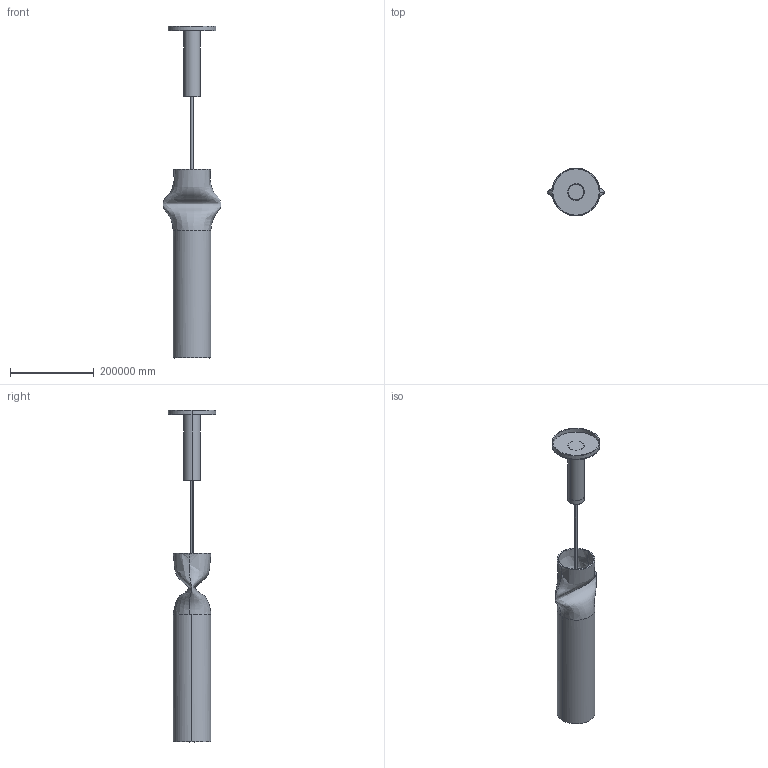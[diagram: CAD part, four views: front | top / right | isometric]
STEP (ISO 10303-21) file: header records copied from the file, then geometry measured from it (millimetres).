
FILE_DESCRIPTION(/* description */ (''),/* implementation_level */ '2;1');
FILE_NAME(/* name */ 'Press lamp UL',/* time_stamp */ '2019-02-04T14:00:21+01:00',/* author */ (''),/* organization */ (''),/* preprocessor_version */ 'ST-DEVELOPER v15',/* originating_system */ '',/* authorisation */ '');
FILE_SCHEMA (('AUTOMOTIVE_DESIGN'));
Length unit declared in the file: metre
Products named in the file (2): Document; 11-028296 01
Assembly tree (1 placements, depth 2):
  Document
    11-028296 01
Bounding box: 137956.47 x 114176.18 x 791867.8 mm (x, y, z)
Volume: 506279652809554.7 mm3; surface area: 352236273118.5 mm2
Topology: 7 solids, 8 shells, 74 faces, 155 edges, 100 vertices
Faces by surface type: bspline 54, plane 20
Entity records: 19485 total; most frequent: CARTESIAN_POINT 18477, ORIENTED_EDGE 305, EDGE_CURVE 153, VERTEX_POINT 100, EDGE_LOOP 88, ADVANCED_FACE 74, FACE_OUTER_BOUND 74, B_SPLINE_CURVE_WITH_KNOTS 56
